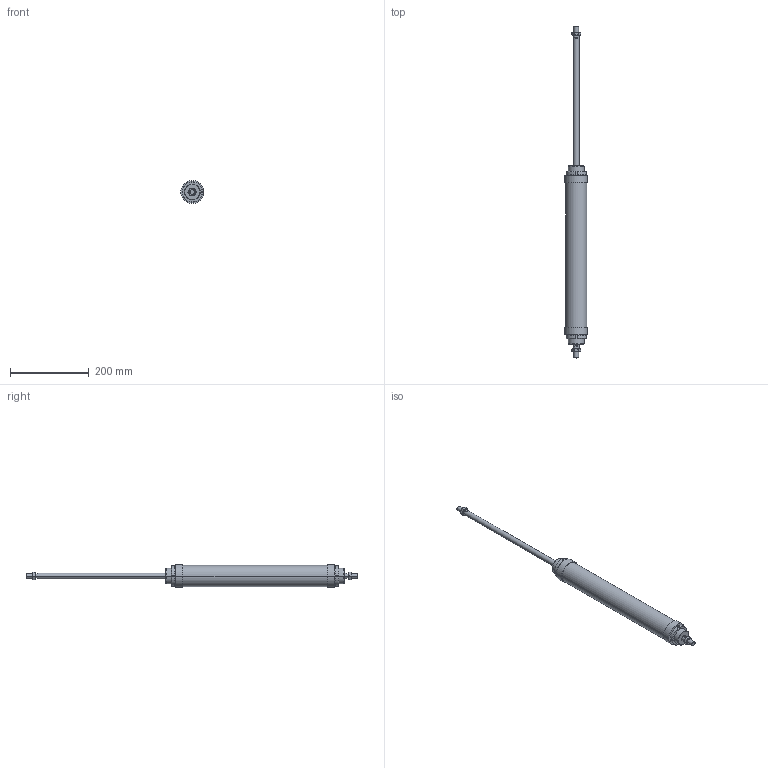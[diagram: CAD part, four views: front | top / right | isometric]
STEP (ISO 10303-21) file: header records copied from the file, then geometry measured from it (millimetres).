
FILE_DESCRIPTION((''),'2;1');
FILE_NAME('I:\DOC-EDP\Lib-3d\1200\CILINDRI\1262\1262_50_0320.stp','2003-04-02T19:16:42',('maffial1'),(''),'Autodesk Inventor (R) 6.0','Autodesk Inventor (R) 6.0','');
FILE_SCHEMA(('AUTOMOTIVE_DESIGN { 1 0 10303 214 1 1 1 1 }'));
Length unit declared in the file: millimetre
Products named in the file (5): 1262_50_0320; S1262_50_320; C1262_50_320; 1200_50_05; 1200_50_06
Assembly tree (6 placements, depth 2):
  1262_50_0320
    S1262_50_320
    C1262_50_320
    1200_50_05  x2
    1200_50_06  x2
Bounding box: 56.6 x 842 x 57.85 mm (x, y, z)
Volume: 1069752.1 mm3; surface area: 149091.9 mm2
Topology: 6 solids, 6 shells, 182 faces, 424 edges, 264 vertices
Faces by surface type: plane 66, cone 56, cylinder 30, bspline 30
Entity records: 3737 total; most frequent: CARTESIAN_POINT 969, DIRECTION 572, ORIENTED_EDGE 548, EDGE_CURVE 274, AXIS2_PLACEMENT_3D 227, VERTEX_POINT 172, EDGE_LOOP 136, FACE_OUTER_BOUND 120
